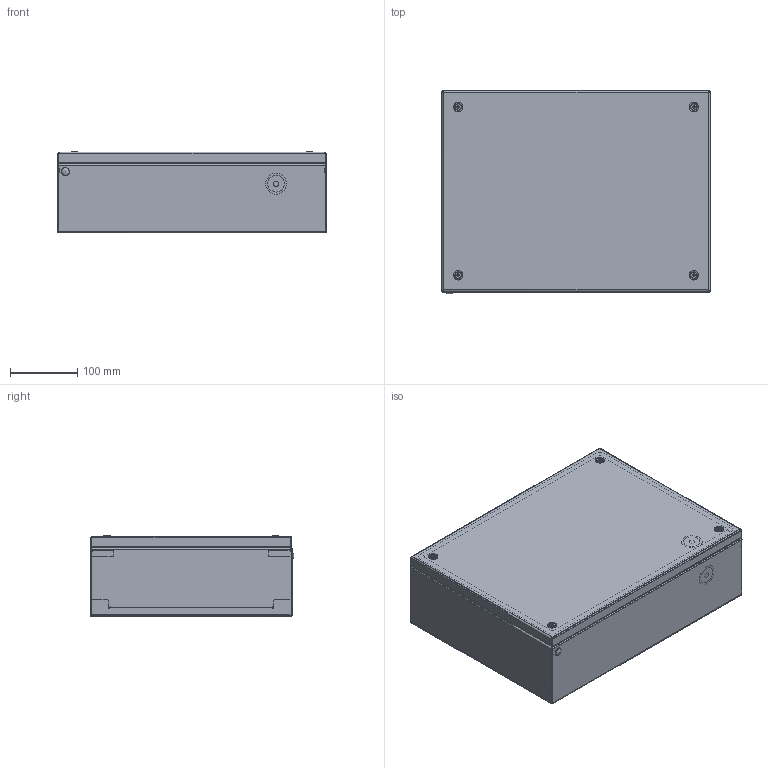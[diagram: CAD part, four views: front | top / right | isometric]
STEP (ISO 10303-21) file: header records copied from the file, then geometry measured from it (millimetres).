
FILE_DESCRIPTION (( 'STEP AP203' ), '1' );
FILE_NAME ('BCS 30.40.12-L Êîðîáêà êëåììíàÿ.STEP', '2025-05-06T09:32:49', ( '' ), ( '' ), 'SwSTEP 2.0', 'SolidWorks 2019', '' );
FILE_SCHEMA (( 'CONFIG_CONTROL_DESIGN' ));
Length unit declared in the file: millimetre
Products named in the file (14): ﾘ琺矜 5 ﾃﾎﾑﾒ 11371-78_Washer DIN 126 - 5.5; BÑS X.Y.02.000-L ÑÁ Êðûøêà êëåììíàÿ_B‘S 30.40.02.000-L; B裇 Y.004-L 鱼铍铌_B慡 40.004-L; Øïèëüêà çàçåìëåíèÿ Ì6õ17,5_v.2_˜¯¨«ìª  § §¥¬«¥­¨ï Œ6å17,5 á ª®«¯ çª®¬; BCS 30.40.12-L Êîðîáêà êëåììíàÿ; MPB X.Y.001 Ìîíòàæíàÿ ïàíåëü_MPB 30.40.001 Œ®­â ¦­ ï ¯ ­¥«ì; BCS X.Y.12.01.001 暑痫篑_BCS 30.40.12.01.001 姰喁汜; 妈眚 襦祛磬疱玎栝_4,8x11; Essentra_d9.3_055009300003; Ãàéêà çàêëàäíàÿ êâàäðàòíàÿ îö. Ì5_ƒ ©ª  § ª« ¤­ ï ª¢ ¤à â­ ï ®æ. Œ5 1,7-2,7; B裇 X.Y.Z.01.000-L 蚜 暑痫篑 觌屐祉 疋囵眍開BCS 30.40.12.01.000-L; 妈眚 礤恹镟溧栝 镱蜞轫铋 梦岩 10339-80_M5x32; BCS X.002 ﾊ煇鳫_BCS 30.002 癌ｮｭ鞣･ｩｭ; BÑS X.Y.02.001-L Êðûøêà êëåììíàÿ_B‘S 30.40.02.001-L
Assembly tree (28 placements, depth 3):
  BCS 30.40.12-L Êîðîáêà êëåììíàÿ
    B裇 X.Y.Z.01.000-L 蚜 暑痫篑 觌屐祉 疋囵眍開BCS 30.40.12.01.000-L
      BCS X.Y.12.01.001 暑痫篑_BCS 30.40.12.01.001 姰喁汜
      BCS X.002 ﾊ煇鳫_BCS 30.002 癌ｮｭ鞣･ｩｭ  x2
      Øïèëüêà çàçåìëåíèÿ Ì6õ17,5_v.2_˜¯¨«ìª  § §¥¬«¥­¨ï Œ6å17,5 á ª®«¯ çª®¬
      B裇 Y.004-L 鱼铍铌_B慡 40.004-L  x2
    BÑS X.Y.02.000-L ÑÁ Êðûøêà êëåììíàÿ_B‘S 30.40.02.000-L
      BÑS X.Y.02.001-L Êðûøêà êëåììíàÿ_B‘S 30.40.02.001-L
      Øïèëüêà çàçåìëåíèÿ Ì6õ17,5_v.2_˜¯¨«ìª  § §¥¬«¥­¨ï Œ6å17,5 á ª®«¯ çª®¬
    MPB X.Y.001 Ìîíòàæíàÿ ïàíåëü_MPB 30.40.001 Œ®­â ¦­ ï ¯ ­¥«ì
    妈眚 襦祛磬疱玎栝_4,8x11  x4
    ﾘ琺矜 5 ﾃﾎﾑﾒ 11371-78_Washer DIN 126 - 5.5  x4
    妈眚 礤恹镟溧栝 镱蜞轫铋 梦岩 10339-80_M5x32  x4
    Ãàéêà çàêëàäíàÿ êâàäðàòíàÿ îö. Ì5_ƒ ©ª  § ª« ¤­ ï ª¢ ¤à â­ ï ®æ. Œ5 1,7-2,7  x4
    Essentra_d9.3_055009300003
Bounding box: 400 x 302.5 x 121.5 mm (x, y, z)
Volume: 812111.3 mm3; surface area: 1194602.6 mm2
Topology: 33 solids, 33 shells, 1729 faces, 4199 edges, 2551 vertices
Faces by surface type: plane 912, cylinder 584, bspline 94, cone 94, torus 44, sphere 1
Entity records: 31293 total; most frequent: CARTESIAN_POINT 9770, ORIENTED_EDGE 4170, DIRECTION 4004, EDGE_CURVE 2085, AXIS2_PLACEMENT_3D 1408, VERTEX_POINT 1273, VECTOR 1188, LINE 1188
